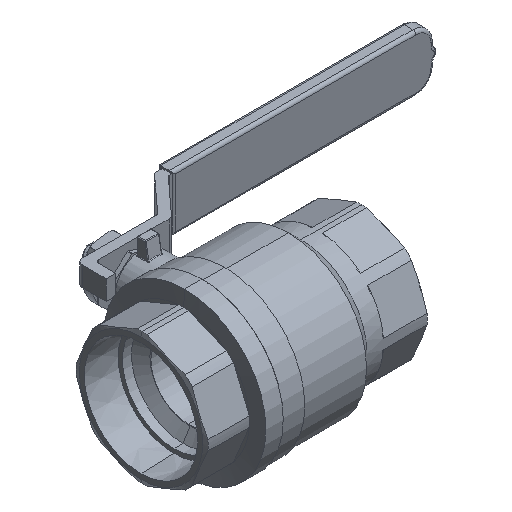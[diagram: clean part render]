
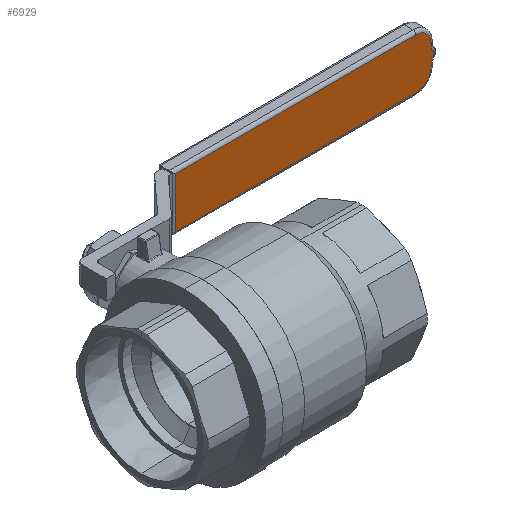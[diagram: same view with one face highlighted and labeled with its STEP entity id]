
A CAD part, isometric view. The second image highlights one B-rep face of the part: STEP entity #6929.
In plain terms, the highlighted planar face has unit normal (0, -1, 0).
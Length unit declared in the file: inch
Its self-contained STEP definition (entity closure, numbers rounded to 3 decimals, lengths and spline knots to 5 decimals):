
#53 = CARTESIAN_POINT ( 'NONE',  ( 5.41967, 2.68, -0.17 ) ) ;
#480 = CARTESIAN_POINT ( 'NONE',  ( 5.41967, 2.68, -0.42 ) ) ;
#563 = CARTESIAN_POINT ( 'NONE',  ( 5.66967, 2.68, -0.17 ) ) ;
#677 = EDGE_CURVE ( 'NONE', #16874, #3350, #13396, .T. ) ;
#965 = PLANE ( 'NONE',  #19200 ) ;
#968 = DIRECTION ( 'NONE',  ( 0., 0., 1. ) ) ;
#1378 = VERTEX_POINT ( 'NONE', #14882 ) ;
#1674 = EDGE_CURVE ( 'NONE', #7987, #11987, #25078, .T. ) ;
#1753 = AXIS2_PLACEMENT_3D ( 'NONE', #4215, #18341, #6235 ) ;
#2371 = EDGE_CURVE ( 'NONE', #11373, #7987, #8001, .T. ) ;
#3021 = VERTEX_POINT ( 'NONE', #3391 ) ;
#3154 = DIRECTION ( 'NONE',  ( 0., -1., 0. ) ) ;
#3248 = ORIENTED_EDGE ( 'NONE', *, *, #10100, .T. ) ;
#3350 = VERTEX_POINT ( 'NONE', #563 ) ;
#3391 = CARTESIAN_POINT ( 'NONE',  ( 5.66967, 2.68, 0.14142 ) ) ;
#3638 = ORIENTED_EDGE ( 'NONE', *, *, #18991, .T. ) ;
#3836 = DIRECTION ( 'NONE',  ( -1., 0., 0. ) ) ;
#3856 = DIRECTION ( 'NONE',  ( 0., 1., 0. ) ) ;
#3971 = VERTEX_POINT ( 'NONE', #14547 ) ;
#4177 = ORIENTED_EDGE ( 'NONE', *, *, #2371, .T. ) ;
#4215 = CARTESIAN_POINT ( 'NONE',  ( 5.41967, 2.68, 0.17 ) ) ;
#4282 = ORIENTED_EDGE ( 'NONE', *, *, #1674, .T. ) ;
#5025 = DIRECTION ( 'NONE',  ( 0., 0., 1. ) ) ;
#5193 = AXIS2_PLACEMENT_3D ( 'NONE', #6730, #20862, #8745 ) ;
#5585 = CARTESIAN_POINT ( 'NONE',  ( 5.7136, 2.68, 0.03535 ) ) ;
#6192 = DIRECTION ( 'NONE',  ( 0., 0., -1. ) ) ;
#6235 = DIRECTION ( 'NONE',  ( 0., 0., 1. ) ) ;
#6730 = CARTESIAN_POINT ( 'NONE',  ( 5.81967, 2.68, 0.14142 ) ) ;
#6929 = ADVANCED_FACE ( 'NONE', ( #9259 ), #965, .F. ) ;
#7067 = CARTESIAN_POINT ( 'NONE',  ( 5.7136, 2.68, -0.03535 ) ) ;
#7078 = DIRECTION ( 'NONE',  ( 0., 0., 1. ) ) ;
#7987 = VERTEX_POINT ( 'NONE', #7067 ) ;
#8001 = CIRCLE ( 'NONE', #25575, 0.15 ) ;
#8415 = CARTESIAN_POINT ( 'NONE',  ( 5.66967, 2.68, 0.17 ) ) ;
#8563 = CARTESIAN_POINT ( 'NONE',  ( 5.66967, 2.68, -0.14142 ) ) ;
#8745 = DIRECTION ( 'NONE',  ( 0., 0., 1. ) ) ;
#9106 = VECTOR ( 'NONE', #12592, 39.37008 ) ;
#9259 = FACE_OUTER_BOUND ( 'NONE', #17301, .T. ) ;
#9805 = CARTESIAN_POINT ( 'NONE',  ( 5.67825, 2.68, 0. ) ) ;
#10100 = EDGE_CURVE ( 'NONE', #3971, #23936, #22540, .T. ) ;
#10500 = EDGE_CURVE ( 'NONE', #3021, #11080, #19978, .T. ) ;
#11006 = CIRCLE ( 'NONE', #1753, 0.25 ) ;
#11013 = CARTESIAN_POINT ( 'NONE',  ( 5.41967, 2.68, -0.17 ) ) ;
#11080 = VERTEX_POINT ( 'NONE', #8415 ) ;
#11373 = VERTEX_POINT ( 'NONE', #8563 ) ;
#11678 = DIRECTION ( 'NONE',  ( 0., -1., 0. ) ) ;
#11791 = DIRECTION ( 'NONE',  ( 0., 0., 1. ) ) ;
#11987 = VERTEX_POINT ( 'NONE', #5585 ) ;
#12205 = AXIS2_PLACEMENT_3D ( 'NONE', #53, #3154, #7078 ) ;
#12592 = DIRECTION ( 'NONE',  ( 1., 0., 0. ) ) ;
#13396 = CIRCLE ( 'NONE', #12205, 0.25 ) ;
#14547 = CARTESIAN_POINT ( 'NONE',  ( 1.4, 2.68, 0.42 ) ) ;
#14636 = VECTOR ( 'NONE', #968, 39.37008 ) ;
#14882 = CARTESIAN_POINT ( 'NONE',  ( 5.41967, 2.68, 0.42 ) ) ;
#14956 = ORIENTED_EDGE ( 'NONE', *, *, #10500, .T. ) ;
#15180 = CIRCLE ( 'NONE', #5193, 0.15 ) ;
#15493 = LINE ( 'NONE', #15942, #26220 ) ;
#15942 = CARTESIAN_POINT ( 'NONE',  ( 1.35, 2.68, 0.42 ) ) ;
#15961 = CARTESIAN_POINT ( 'NONE',  ( 5.81967, 2.68, -0.14142 ) ) ;
#16874 = VERTEX_POINT ( 'NONE', #19871 ) ;
#17132 = DIRECTION ( 'NONE',  ( 0., 1., 0. ) ) ;
#17170 = VECTOR ( 'NONE', #6192, 39.37008 ) ;
#17198 = EDGE_CURVE ( 'NONE', #1378, #3971, #15493, .T. ) ;
#17301 = EDGE_LOOP ( 'NONE', ( #20899, #3248, #21742, #21271, #24493, #4177, #4282, #19491, #14956, #3638 ) ) ;
#18304 = CARTESIAN_POINT ( 'NONE',  ( 1.4, 2.68, -0.47 ) ) ;
#18341 = DIRECTION ( 'NONE',  ( 0., -1., 0. ) ) ;
#18544 = LINE ( 'NONE', #22188, #24539 ) ;
#18991 = EDGE_CURVE ( 'NONE', #11080, #1378, #11006, .T. ) ;
#19130 = EDGE_CURVE ( 'NONE', #23936, #16874, #19854, .T. ) ;
#19200 = AXIS2_PLACEMENT_3D ( 'NONE', #11013, #17132, #5025 ) ;
#19319 = AXIS2_PLACEMENT_3D ( 'NONE', #9805, #11678, #21666 ) ;
#19491 = ORIENTED_EDGE ( 'NONE', *, *, #25538, .T. ) ;
#19854 = LINE ( 'NONE', #480, #9106 ) ;
#19871 = CARTESIAN_POINT ( 'NONE',  ( 5.41967, 2.68, -0.42 ) ) ;
#19978 = LINE ( 'NONE', #25065, #14636 ) ;
#20862 = DIRECTION ( 'NONE',  ( 0., 1., 0. ) ) ;
#20899 = ORIENTED_EDGE ( 'NONE', *, *, #17198, .T. ) ;
#21271 = ORIENTED_EDGE ( 'NONE', *, *, #677, .T. ) ;
#21600 = CARTESIAN_POINT ( 'NONE',  ( 1.4, 2.68, -0.42 ) ) ;
#21666 = DIRECTION ( 'NONE',  ( 0., 0., 1. ) ) ;
#21742 = ORIENTED_EDGE ( 'NONE', *, *, #19130, .T. ) ;
#22188 = CARTESIAN_POINT ( 'NONE',  ( 5.66967, 2.68, -0.14142 ) ) ;
#22540 = LINE ( 'NONE', #18304, #17170 ) ;
#23115 = EDGE_CURVE ( 'NONE', #3350, #11373, #18544, .T. ) ;
#23936 = VERTEX_POINT ( 'NONE', #21600 ) ;
#24493 = ORIENTED_EDGE ( 'NONE', *, *, #23115, .T. ) ;
#24539 = VECTOR ( 'NONE', #11791, 39.37008 ) ;
#25065 = CARTESIAN_POINT ( 'NONE',  ( 5.66967, 2.68, 0.17 ) ) ;
#25078 = CIRCLE ( 'NONE', #19319, 0.05 ) ;
#25538 = EDGE_CURVE ( 'NONE', #11987, #3021, #15180, .T. ) ;
#25575 = AXIS2_PLACEMENT_3D ( 'NONE', #15961, #3856, #26106 ) ;
#26106 = DIRECTION ( 'NONE',  ( 0., 0., 1. ) ) ;
#26220 = VECTOR ( 'NONE', #3836, 39.37008 ) ;
